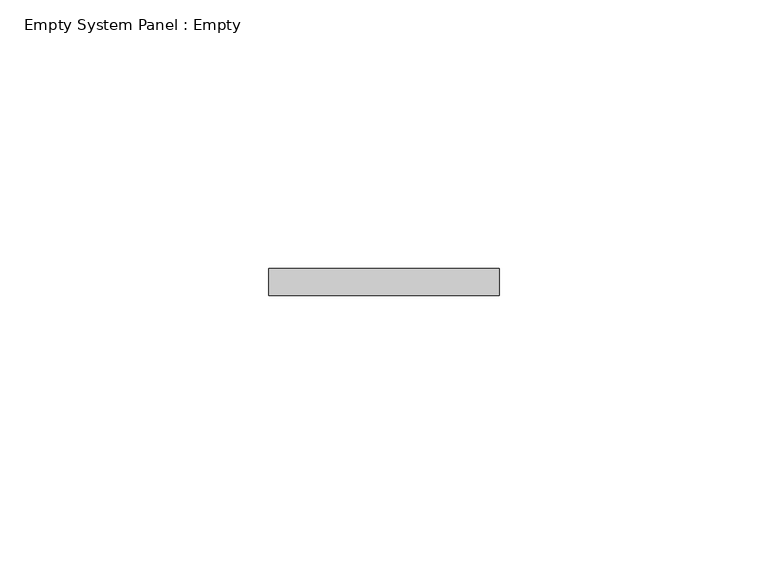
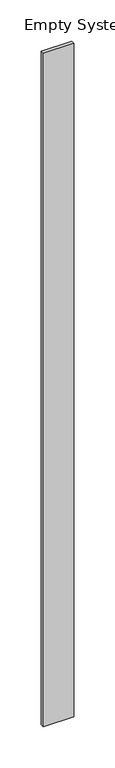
"""IFC4 building model written with IfcOpenShell, lengths in millimetres: plate geometry, Empty System Panel : Empty."""

from ifc_helpers import new_model, si_unit, origin, origin_with_axes, place, context, project, spatial, polyline, outline, extrude, source, transform, mapped, element, save


def empty_system_panel_empty_a56830bf(model_context):
    return source(origin(), model_context, "Body", "SweptSolid", [
        extrude(outline(polyline([(21.4277792, 97.5), (-21.4277792, 97.5), (-21.4277792, 102.5), (21.4277792, 102.5), (21.4277792, 97.5)])), origin_with_axes(), (0.0, 0.0, 1.0), 1000.0),
    ])


if __name__ == "__main__":
    model = new_model("IFC4")
    model_context = context("Model", 3, world=origin())
    ifc_project = project(units=[si_unit("LENGTHUNIT", "METRE", prefix="MILLI")], contexts=[model_context])
    site = spatial("IfcSite", under=ifc_project)
    building = spatial("IfcBuilding", under=site)
    placement = place(None, origin())
    empty_system_panel_empty_shape = empty_system_panel_empty_a56830bf(model_context)
    element("IfcPlate", 1, ObjectType="Empty System Panel : Empty", at=placement, inside=building, context=model_context, shape_type="MappedRepresentation", body=[
        mapped(empty_system_panel_empty_shape, transform((0.0, 0.0, 0.0), x_axis=(1.0, 0.0, 0.0), y_axis=(0.0, 1.0, 0.0), z_axis=(0.0, 0.0, 1.0))),
    ])
    save(model, "model.ifc")
